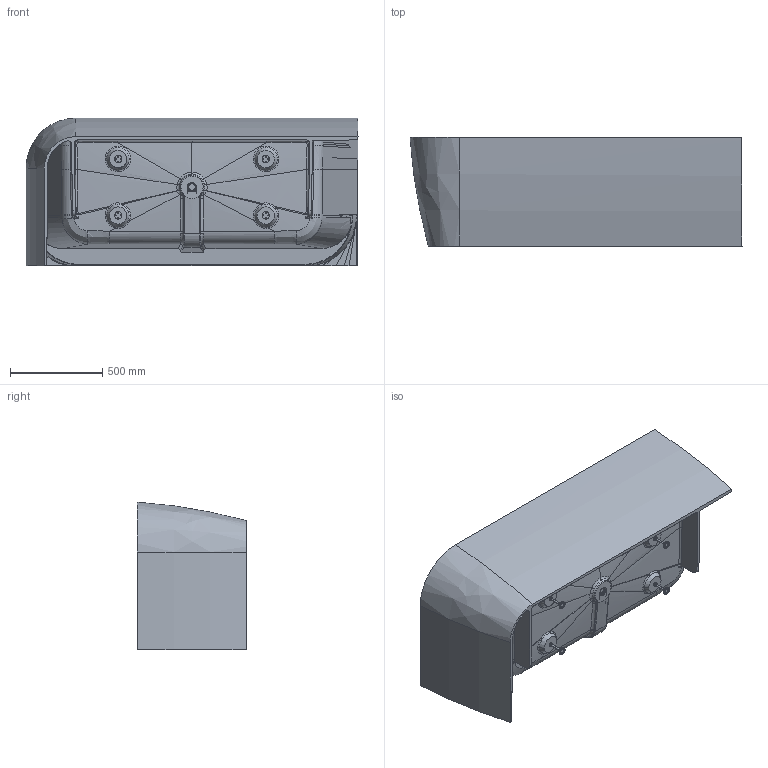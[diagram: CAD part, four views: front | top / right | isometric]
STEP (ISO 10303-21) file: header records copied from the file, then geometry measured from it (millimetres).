
FILE_DESCRIPTION((''),'2;1');
FILE_NAME('ASS_ANTIGUA_DX_ASM_ASM','2026-07-27T16:03:56',('Presotto.Paolo'),('Ronal group'),'CREO PARAMETRIC BY PTC INC, 2024401','CREO PARAMETRIC BY PTC INC, 2024401','');
FILE_SCHEMA(('CONFIG_CONTROL_DESIGN'));
Length unit declared in the file: millimetre
Products named in the file (8): PILETTA_1_1_1_1_2_3_4; VASCA_DA_BAGNO_DESTRA_1800X80_1; PIEDINO_130MM_1_1_2_3_4; DADO_EF_DB_M10_ZN_UNI6923_1_1_7; PIEDINO_BULLONE_D130_H95_1_AS_8_ASM; PIEDINO_BULLONE_D130_H95_ASM__7_ASM; ASS_ANTIGUA_DX_ASM_1_ASM; ASS_ANTIGUA_DX_ASM_ASM
Assembly tree (11 placements, depth 5):
  ASS_ANTIGUA_DX_ASM_ASM
    ASS_ANTIGUA_DX_ASM_1_ASM
      PILETTA_1_1_1_1_2_3_4
      VASCA_DA_BAGNO_DESTRA_1800X80_1
      PIEDINO_BULLONE_D130_H95_ASM__7_ASM  x4
        PIEDINO_BULLONE_D130_H95_1_AS_8_ASM
          PIEDINO_130MM_1_1_2_3_4
          DADO_EF_DB_M10_ZN_UNI6923_1_1_7  x2
Bounding box: 1800 x 591 x 800 mm (x, y, z)
Volume: 128206 mm3; surface area: 7494478.2 mm2
Topology: 13 solids, 16 shells, 1083 faces, 3006 edges, 1961 vertices
Faces by surface type: cylinder 424, bspline 295, plane 186, cone 118, torus 40, sphere 11, extrusion 8, revolution 1
Entity records: 37903 total; most frequent: CARTESIAN_POINT 26661, ORIENTED_EDGE 2685, DIRECTION 1658, EDGE_CURVE 1378, VERTEX_POINT 864, B_SPLINE_CURVE_WITH_KNOTS 726, AXIS2_PLACEMENT_3D 639, EDGE_LOOP 556
